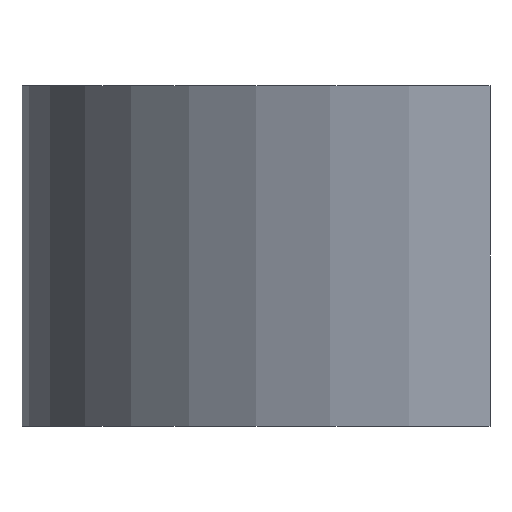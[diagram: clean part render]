
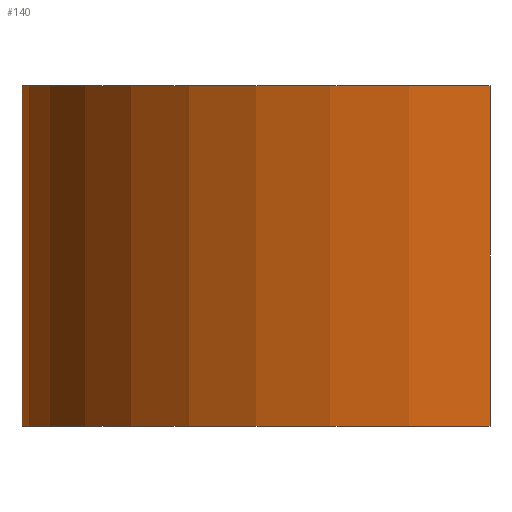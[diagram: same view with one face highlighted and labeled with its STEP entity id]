
A CAD part, front view. The second image highlights one B-rep face of the part: STEP entity #140.
In plain terms, the highlighted cylindrical face has radius 27.5 mm (diameter 55 mm), a partial arc.
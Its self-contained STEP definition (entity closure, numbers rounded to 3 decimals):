
#101=CARTESIAN_POINT('Axis2P3D Location',(0.,-6.5,129.)) ;
#106=CARTESIAN_POINT('Line Origine',(0.,21.,129.)) ;
#110=CARTESIAN_POINT('Vertex',(0.,21.,119.)) ;
#112=CARTESIAN_POINT('Vertex',(0.,21.,139.)) ;
#115=CARTESIAN_POINT('Axis2P3D Location',(0.,-6.5,119.)) ;
#119=CARTESIAN_POINT('Vertex',(0.,-34.,119.)) ;
#122=CARTESIAN_POINT('Line Origine',(0.,-34.,129.)) ;
#126=CARTESIAN_POINT('Vertex',(0.,-34.,139.)) ;
#129=CARTESIAN_POINT('Axis2P3D Location',(0.,-6.5,139.)) ;
#102=DIRECTION('Axis2P3D Direction',(0.,0.,1.)) ;
#103=DIRECTION('Axis2P3D XDirection',(0.,1.,0.)) ;
#107=DIRECTION('Vector Direction',(0.,0.,1.)) ;
#116=DIRECTION('Axis2P3D Direction',(0.,0.,1.)) ;
#123=DIRECTION('Vector Direction',(0.,0.,1.)) ;
#130=DIRECTION('Axis2P3D Direction',(0.,0.,1.)) ;
#104=AXIS2_PLACEMENT_3D('Cylinder Axis2P3D',#101,#102,#103) ;
#117=AXIS2_PLACEMENT_3D('Circle Axis2P3D',#115,#116,$) ;
#131=AXIS2_PLACEMENT_3D('Circle Axis2P3D',#129,#130,$) ;
#135=ORIENTED_EDGE('',*,*,#114,.F.) ;
#136=ORIENTED_EDGE('',*,*,#121,.T.) ;
#137=ORIENTED_EDGE('',*,*,#128,.T.) ;
#138=ORIENTED_EDGE('',*,*,#133,.F.) ;
#108=VECTOR('Line Direction',#107,1.) ;
#124=VECTOR('Line Direction',#123,1.) ;
#140=ADVANCED_FACE('Extrude.1',(#139),#105,.T.) ;
#118=CIRCLE('generated circle',#117,27.5) ;
#132=CIRCLE('generated circle',#131,27.5) ;
#105=CYLINDRICAL_SURFACE('generated cylinder',#104,27.5) ;
#114=EDGE_CURVE('',#111,#113,#109,.T.) ;
#121=EDGE_CURVE('',#111,#120,#118,.T.) ;
#128=EDGE_CURVE('',#120,#127,#125,.T.) ;
#133=EDGE_CURVE('',#113,#127,#132,.T.) ;
#134=EDGE_LOOP('',(#135,#136,#137,#138)) ;
#139=FACE_OUTER_BOUND('',#134,.T.) ;
#109=LINE('Line',#106,#108) ;
#125=LINE('Line',#122,#124) ;
#111=VERTEX_POINT('',#110) ;
#113=VERTEX_POINT('',#112) ;
#120=VERTEX_POINT('',#119) ;
#127=VERTEX_POINT('',#126) ;
